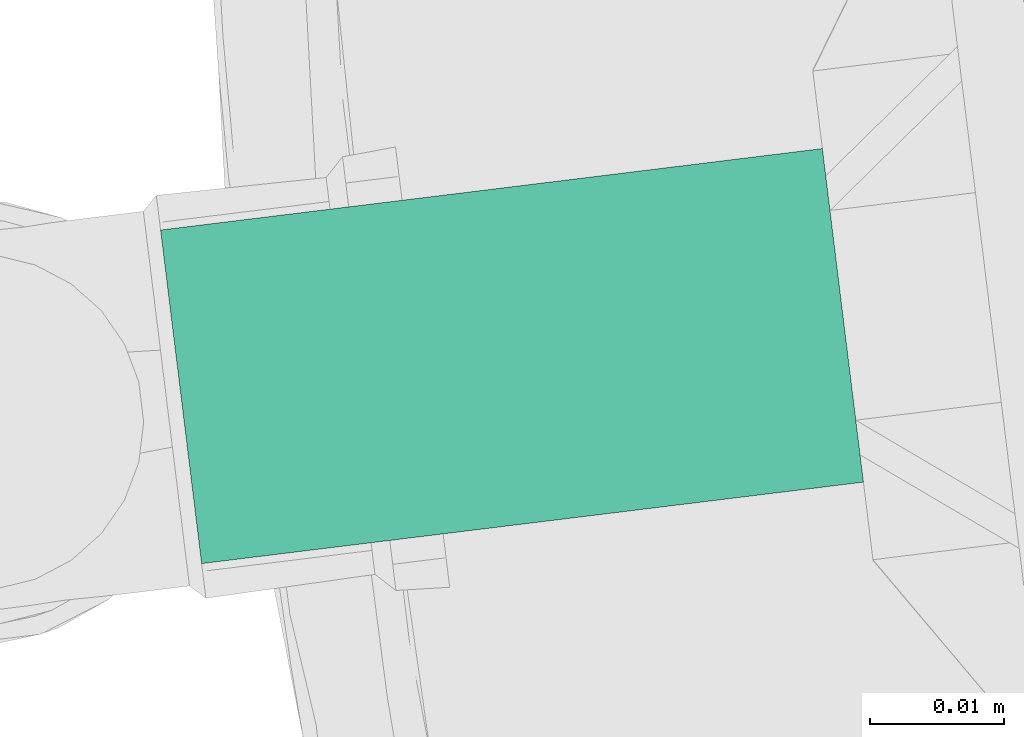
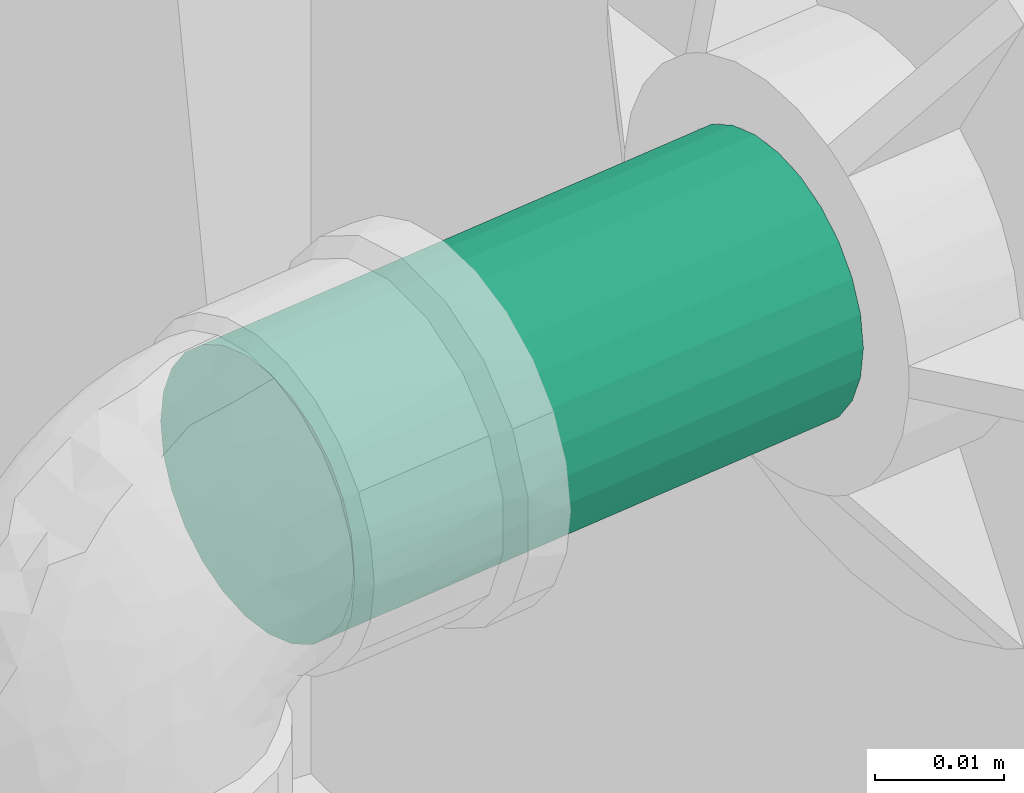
# One storey, part 70 of 97: 1 flow segment.
"""IFC2X3 building model written with IfcOpenShell, lengths in centimetres."""

from ifc_helpers import new_model, entity, si_unit, converted_unit, derived_unit, direction, frame, frame_2d, origin, place, context, subcontext, project, spatial, circle, extrude, type_object, element, save


model = new_model("IFC2X3")

# Units and contexts
model_context = context("Model", 3, precision=0.001, world=origin(), true_north=direction((6.12303176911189e-17, 1.0)))
body_context = subcontext(model_context, "Body", "Model", "MODEL_VIEW")
ifc_project = project(units=[si_unit("LENGTHUNIT", "METRE", prefix="CENTI"), si_unit("AREAUNIT", "SQUARE_METRE"), si_unit("VOLUMEUNIT", "CUBIC_METRE"), converted_unit("PLANEANGLEUNIT", "DEGREE", entity("IfcRatioMeasure", 0.0174532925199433), si_unit("PLANEANGLEUNIT", "RADIAN"), dimensions=[0, 0, 0, 0, 0, 0, 0]), si_unit("MASSUNIT", "GRAM", prefix="KILO"), derived_unit("MASSDENSITYUNIT", [(si_unit("MASSUNIT", "GRAM", prefix="KILO"), 1), (si_unit("LENGTHUNIT", "METRE"), -3)]), derived_unit("MOMENTOFINERTIAUNIT", [(si_unit("LENGTHUNIT", "METRE"), 4)]), si_unit("TIMEUNIT", "SECOND"), si_unit("FREQUENCYUNIT", "HERTZ"), si_unit("THERMODYNAMICTEMPERATUREUNIT", "DEGREE_CELSIUS"), derived_unit("THERMALTRANSMITTANCEUNIT", [(si_unit("MASSUNIT", "GRAM", prefix="KILO"), 1), (si_unit("THERMODYNAMICTEMPERATUREUNIT", "KELVIN"), -1), (si_unit("TIMEUNIT", "SECOND"), -3)]), derived_unit("VOLUMETRICFLOWRATEUNIT", [(si_unit("LENGTHUNIT", "METRE"), 3), (si_unit("TIMEUNIT", "SECOND"), -1)]), si_unit("ELECTRICCURRENTUNIT", "AMPERE"), si_unit("ELECTRICVOLTAGEUNIT", "VOLT"), si_unit("POWERUNIT", "WATT"), si_unit("FORCEUNIT", "NEWTON", prefix="KILO"), si_unit("ILLUMINANCEUNIT", "LUX"), si_unit("LUMINOUSFLUXUNIT", "LUMEN"), si_unit("LUMINOUSINTENSITYUNIT", "CANDELA"), derived_unit("USERDEFINED", [(si_unit("MASSUNIT", "GRAM", prefix="KILO"), -1), (si_unit("LENGTHUNIT", "METRE"), -2), (si_unit("TIMEUNIT", "SECOND"), 3), (si_unit("LUMINOUSFLUXUNIT", "LUMEN"), 1)]), derived_unit("LINEARVELOCITYUNIT", [(si_unit("LENGTHUNIT", "METRE"), 1), (si_unit("TIMEUNIT", "SECOND"), -1)]), si_unit("PRESSUREUNIT", "PASCAL"), derived_unit("USERDEFINED", [(si_unit("LENGTHUNIT", "METRE"), -2), (si_unit("MASSUNIT", "GRAM", prefix="KILO"), 1), (si_unit("TIMEUNIT", "SECOND"), -2)]), derived_unit("LINEARFORCEUNIT", [(si_unit("MASSUNIT", "GRAM", prefix="KILO"), 1), (si_unit("LENGTHUNIT", "METRE"), 1), (si_unit("TIMEUNIT", "SECOND"), -2), (si_unit("LENGTHUNIT", "METRE"), -1)]), derived_unit("PLANARFORCEUNIT", [(si_unit("MASSUNIT", "GRAM", prefix="KILO"), 1), (si_unit("LENGTHUNIT", "METRE"), 1), (si_unit("TIMEUNIT", "SECOND"), -2), (si_unit("LENGTHUNIT", "METRE"), -2)])], contexts=[model_context])

# Site, building, storey
site_placement = place(None, origin())
site = spatial("IfcSite", under=ifc_project, at=site_placement, Name="Default", CompositionType="ELEMENT")
building_placement = place(site_placement, origin())
building = spatial("IfcBuilding", under=site, at=building_placement, Name="HIDROSSANITÁRIO", CompositionType="ELEMENT")
storey_placement = place(building_placement, frame((0.0, 0.0, -260.0)))
storey = spatial("IfcBuildingStorey", under=building, at=storey_placement, Name="TÉRREO-HID", CompositionType="ELEMENT", Elevation=-260.0)

# Flow segment
pipe_segment_type = type_object("IfcPipeSegmentType", Name="Tipos de tubos:Tubo Marrom - Água Fria - Soldável", PredefinedType="NOTDEFINED")
flow_segment_placement = place(storey_placement, origin())
element("IfcFlowSegment", 1, at=flow_segment_placement, inside=storey, type_object=pipe_segment_type, Name="Tipos de tubos:Tubo Marrom - Água Fria - Soldável", ObjectType="Tipos de tubos:Tubo Marrom - Água Fria - Soldável", context=body_context, shape_type="SweptSolid", body=[
    extrude(circle(Radius=1.25, at=frame_2d((-4.28116824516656e-43, -1.35358391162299e-14), x_axis=(1.0, 0.0))), frame((-1718.6542972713, 3031.68601554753, 325.5), z_axis=(0.992511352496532, 0.122152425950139, 0.0), x_axis=(-0.122152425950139, 0.992511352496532, 0.0)), (0.0, 0.0, 1.0), 4.96),
])

save(model, "model.ifc")
